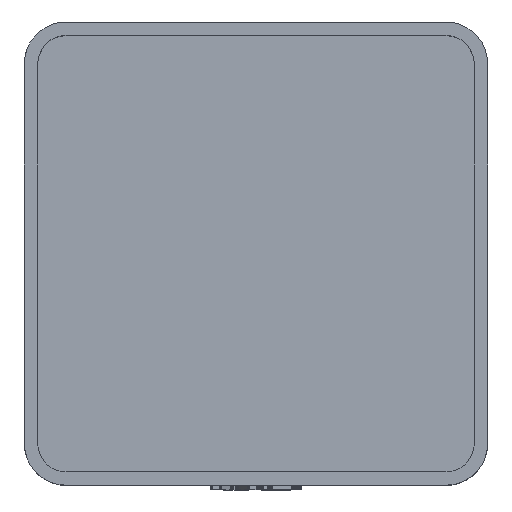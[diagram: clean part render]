
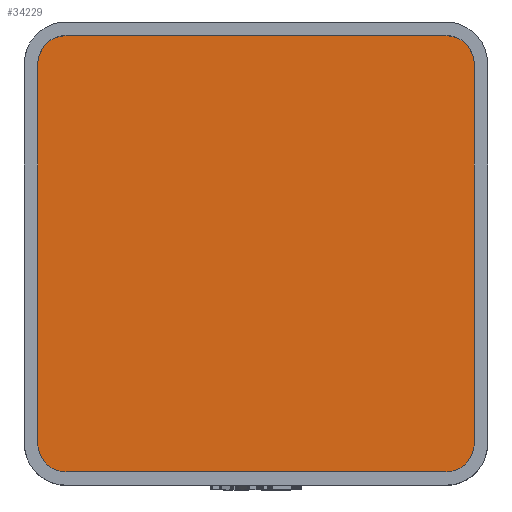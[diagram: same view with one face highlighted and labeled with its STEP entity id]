
A CAD part, top view. The second image highlights one B-rep face of the part: STEP entity #34229.
In plain terms, the highlighted planar face has unit normal (0, 0, 1).
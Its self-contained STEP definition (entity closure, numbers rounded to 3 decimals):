
#1442 = PLANE('',#1443);
#1443 = AXIS2_PLACEMENT_3D('',#1444,#1445,#1446);
#1444 = CARTESIAN_POINT('',(-19.55,-17.,4.75));
#1445 = DIRECTION('',(-1.,0.,0.));
#1446 = DIRECTION('',(0.,1.,0.));
#1474 = CYLINDRICAL_SURFACE('',#1475,2.55);
#1475 = AXIS2_PLACEMENT_3D('',#1476,#1477,#1478);
#1476 = CARTESIAN_POINT('',(-17.,17.,4.75));
#1477 = DIRECTION('',(-0.,-0.,-1.));
#1478 = DIRECTION('',(1.,0.,0.));
#1501 = PLANE('',#1502);
#1502 = AXIS2_PLACEMENT_3D('',#1503,#1504,#1505);
#1503 = CARTESIAN_POINT('',(-17.,19.55,4.75));
#1504 = DIRECTION('',(0.,1.,0.));
#1505 = DIRECTION('',(1.,0.,0.));
#1533 = CYLINDRICAL_SURFACE('',#1534,2.55);
#1534 = AXIS2_PLACEMENT_3D('',#1535,#1536,#1537);
#1535 = CARTESIAN_POINT('',(17.,17.,4.75));
#1536 = DIRECTION('',(-0.,-0.,-1.));
#1537 = DIRECTION('',(1.,0.,0.));
#1560 = PLANE('',#1561);
#1561 = AXIS2_PLACEMENT_3D('',#1562,#1563,#1564);
#1562 = CARTESIAN_POINT('',(19.55,-17.,4.75));
#1563 = DIRECTION('',(-1.,0.,0.));
#1564 = DIRECTION('',(0.,1.,0.));
#1592 = CYLINDRICAL_SURFACE('',#1593,2.55);
#1593 = AXIS2_PLACEMENT_3D('',#1594,#1595,#1596);
#1594 = CARTESIAN_POINT('',(17.,-17.,4.75));
#1595 = DIRECTION('',(-0.,-0.,-1.));
#1596 = DIRECTION('',(1.,0.,0.));
#1619 = PLANE('',#1620);
#1620 = AXIS2_PLACEMENT_3D('',#1621,#1622,#1623);
#1621 = CARTESIAN_POINT('',(-17.,-19.55,4.75));
#1622 = DIRECTION('',(0.,1.,0.));
#1623 = DIRECTION('',(1.,0.,0.));
#1649 = CYLINDRICAL_SURFACE('',#1650,2.55);
#1650 = AXIS2_PLACEMENT_3D('',#1651,#1652,#1653);
#1651 = CARTESIAN_POINT('',(-17.,-17.,4.75));
#1652 = DIRECTION('',(-0.,-0.,-1.));
#1653 = DIRECTION('',(1.,0.,0.));
#12889 = EDGE_CURVE('',#12890,#12892,#12894,.T.);
#12890 = VERTEX_POINT('',#12891);
#12891 = CARTESIAN_POINT('',(-19.55,-17.,4.75));
#12892 = VERTEX_POINT('',#12893);
#12893 = CARTESIAN_POINT('',(-19.55,17.,4.75));
#12894 = SURFACE_CURVE('',#12895,(#12899,#12906),.PCURVE_S1.);
#12895 = LINE('',#12896,#12897);
#12896 = CARTESIAN_POINT('',(-19.55,0.,4.75));
#12897 = VECTOR('',#12898,1.);
#12898 = DIRECTION('',(0.,1.,0.));
#12899 = PCURVE('',#1442,#12900);
#12900 = DEFINITIONAL_REPRESENTATION('',(#12901),#12905);
#12901 = LINE('',#12902,#12903);
#12902 = CARTESIAN_POINT('',(17.,0.));
#12903 = VECTOR('',#12904,1.);
#12904 = DIRECTION('',(1.,0.));
#12905 = ( GEOMETRIC_REPRESENTATION_CONTEXT(2) 
PARAMETRIC_REPRESENTATION_CONTEXT() REPRESENTATION_CONTEXT('2D SPACE',''
  ) );
#12906 = PCURVE('',#12907,#12912);
#12907 = PLANE('',#12908);
#12908 = AXIS2_PLACEMENT_3D('',#12909,#12910,#12911);
#12909 = CARTESIAN_POINT('',(0.,0.,4.75
    ));
#12910 = DIRECTION('',(0.,0.,1.));
#12911 = DIRECTION('',(1.,0.,-0.));
#12912 = DEFINITIONAL_REPRESENTATION('',(#12913),#12917);
#12913 = LINE('',#12914,#12915);
#12914 = CARTESIAN_POINT('',(-19.55,0.));
#12915 = VECTOR('',#12916,1.);
#12916 = DIRECTION('',(0.,1.));
#12917 = ( GEOMETRIC_REPRESENTATION_CONTEXT(2) 
PARAMETRIC_REPRESENTATION_CONTEXT() REPRESENTATION_CONTEXT('2D SPACE',''
  ) );
#12965 = EDGE_CURVE('',#12890,#12966,#12968,.T.);
#12966 = VERTEX_POINT('',#12967);
#12967 = CARTESIAN_POINT('',(-17.,-19.55,4.75));
#12968 = SURFACE_CURVE('',#12969,(#12974,#12981),.PCURVE_S1.);
#12969 = CIRCLE('',#12970,2.55);
#12970 = AXIS2_PLACEMENT_3D('',#12971,#12972,#12973);
#12971 = CARTESIAN_POINT('',(-17.,-17.,4.75));
#12972 = DIRECTION('',(0.,0.,1.));
#12973 = DIRECTION('',(1.,0.,0.));
#12974 = PCURVE('',#1649,#12975);
#12975 = DEFINITIONAL_REPRESENTATION('',(#12976),#12980);
#12976 = LINE('',#12977,#12978);
#12977 = CARTESIAN_POINT('',(-0.,0.));
#12978 = VECTOR('',#12979,1.);
#12979 = DIRECTION('',(-1.,0.));
#12980 = ( GEOMETRIC_REPRESENTATION_CONTEXT(2) 
PARAMETRIC_REPRESENTATION_CONTEXT() REPRESENTATION_CONTEXT('2D SPACE',''
  ) );
#12981 = PCURVE('',#12907,#12982);
#12982 = DEFINITIONAL_REPRESENTATION('',(#12983),#12987);
#12983 = CIRCLE('',#12984,2.55);
#12984 = AXIS2_PLACEMENT_2D('',#12985,#12986);
#12985 = CARTESIAN_POINT('',(-17.,-17.));
#12986 = DIRECTION('',(1.,0.));
#12987 = ( GEOMETRIC_REPRESENTATION_CONTEXT(2) 
PARAMETRIC_REPRESENTATION_CONTEXT() REPRESENTATION_CONTEXT('2D SPACE',''
  ) );
#13015 = EDGE_CURVE('',#12966,#13016,#13018,.T.);
#13016 = VERTEX_POINT('',#13017);
#13017 = CARTESIAN_POINT('',(17.,-19.55,4.75));
#13018 = SURFACE_CURVE('',#13019,(#13023,#13030),.PCURVE_S1.);
#13019 = LINE('',#13020,#13021);
#13020 = CARTESIAN_POINT('',(0.,-19.55,4.75));
#13021 = VECTOR('',#13022,1.);
#13022 = DIRECTION('',(1.,0.,0.));
#13023 = PCURVE('',#1619,#13024);
#13024 = DEFINITIONAL_REPRESENTATION('',(#13025),#13029);
#13025 = LINE('',#13026,#13027);
#13026 = CARTESIAN_POINT('',(17.,0.));
#13027 = VECTOR('',#13028,1.);
#13028 = DIRECTION('',(1.,0.));
#13029 = ( GEOMETRIC_REPRESENTATION_CONTEXT(2) 
PARAMETRIC_REPRESENTATION_CONTEXT() REPRESENTATION_CONTEXT('2D SPACE',''
  ) );
#13030 = PCURVE('',#12907,#13031);
#13031 = DEFINITIONAL_REPRESENTATION('',(#13032),#13036);
#13032 = LINE('',#13033,#13034);
#13033 = CARTESIAN_POINT('',(0.,-19.55));
#13034 = VECTOR('',#13035,1.);
#13035 = DIRECTION('',(1.,0.));
#13036 = ( GEOMETRIC_REPRESENTATION_CONTEXT(2) 
PARAMETRIC_REPRESENTATION_CONTEXT() REPRESENTATION_CONTEXT('2D SPACE',''
  ) );
#13064 = EDGE_CURVE('',#13016,#13065,#13067,.T.);
#13065 = VERTEX_POINT('',#13066);
#13066 = CARTESIAN_POINT('',(19.55,-17.,4.75));
#13067 = SURFACE_CURVE('',#13068,(#13073,#13080),.PCURVE_S1.);
#13068 = CIRCLE('',#13069,2.55);
#13069 = AXIS2_PLACEMENT_3D('',#13070,#13071,#13072);
#13070 = CARTESIAN_POINT('',(17.,-17.,4.75));
#13071 = DIRECTION('',(0.,0.,1.));
#13072 = DIRECTION('',(1.,0.,0.));
#13073 = PCURVE('',#1592,#13074);
#13074 = DEFINITIONAL_REPRESENTATION('',(#13075),#13079);
#13075 = LINE('',#13076,#13077);
#13076 = CARTESIAN_POINT('',(-0.,0.));
#13077 = VECTOR('',#13078,1.);
#13078 = DIRECTION('',(-1.,0.));
#13079 = ( GEOMETRIC_REPRESENTATION_CONTEXT(2) 
PARAMETRIC_REPRESENTATION_CONTEXT() REPRESENTATION_CONTEXT('2D SPACE',''
  ) );
#13080 = PCURVE('',#12907,#13081);
#13081 = DEFINITIONAL_REPRESENTATION('',(#13082),#13086);
#13082 = CIRCLE('',#13083,2.55);
#13083 = AXIS2_PLACEMENT_2D('',#13084,#13085);
#13084 = CARTESIAN_POINT('',(17.,-17.));
#13085 = DIRECTION('',(1.,0.));
#13086 = ( GEOMETRIC_REPRESENTATION_CONTEXT(2) 
PARAMETRIC_REPRESENTATION_CONTEXT() REPRESENTATION_CONTEXT('2D SPACE',''
  ) );
#13114 = EDGE_CURVE('',#13065,#13115,#13117,.T.);
#13115 = VERTEX_POINT('',#13116);
#13116 = CARTESIAN_POINT('',(19.55,17.,4.75));
#13117 = SURFACE_CURVE('',#13118,(#13122,#13129),.PCURVE_S1.);
#13118 = LINE('',#13119,#13120);
#13119 = CARTESIAN_POINT('',(19.55,0.,4.75));
#13120 = VECTOR('',#13121,1.);
#13121 = DIRECTION('',(0.,1.,0.));
#13122 = PCURVE('',#1560,#13123);
#13123 = DEFINITIONAL_REPRESENTATION('',(#13124),#13128);
#13124 = LINE('',#13125,#13126);
#13125 = CARTESIAN_POINT('',(17.,0.));
#13126 = VECTOR('',#13127,1.);
#13127 = DIRECTION('',(1.,0.));
#13128 = ( GEOMETRIC_REPRESENTATION_CONTEXT(2) 
PARAMETRIC_REPRESENTATION_CONTEXT() REPRESENTATION_CONTEXT('2D SPACE',''
  ) );
#13129 = PCURVE('',#12907,#13130);
#13130 = DEFINITIONAL_REPRESENTATION('',(#13131),#13135);
#13131 = LINE('',#13132,#13133);
#13132 = CARTESIAN_POINT('',(19.55,0.));
#13133 = VECTOR('',#13134,1.);
#13134 = DIRECTION('',(0.,1.));
#13135 = ( GEOMETRIC_REPRESENTATION_CONTEXT(2) 
PARAMETRIC_REPRESENTATION_CONTEXT() REPRESENTATION_CONTEXT('2D SPACE',''
  ) );
#13163 = EDGE_CURVE('',#13115,#13164,#13166,.T.);
#13164 = VERTEX_POINT('',#13165);
#13165 = CARTESIAN_POINT('',(17.,19.55,4.75));
#13166 = SURFACE_CURVE('',#13167,(#13172,#13179),.PCURVE_S1.);
#13167 = CIRCLE('',#13168,2.55);
#13168 = AXIS2_PLACEMENT_3D('',#13169,#13170,#13171);
#13169 = CARTESIAN_POINT('',(17.,17.,4.75));
#13170 = DIRECTION('',(0.,0.,1.));
#13171 = DIRECTION('',(1.,0.,0.));
#13172 = PCURVE('',#1533,#13173);
#13173 = DEFINITIONAL_REPRESENTATION('',(#13174),#13178);
#13174 = LINE('',#13175,#13176);
#13175 = CARTESIAN_POINT('',(-0.,0.));
#13176 = VECTOR('',#13177,1.);
#13177 = DIRECTION('',(-1.,0.));
#13178 = ( GEOMETRIC_REPRESENTATION_CONTEXT(2) 
PARAMETRIC_REPRESENTATION_CONTEXT() REPRESENTATION_CONTEXT('2D SPACE',''
  ) );
#13179 = PCURVE('',#12907,#13180);
#13180 = DEFINITIONAL_REPRESENTATION('',(#13181),#13185);
#13181 = CIRCLE('',#13182,2.55);
#13182 = AXIS2_PLACEMENT_2D('',#13183,#13184);
#13183 = CARTESIAN_POINT('',(17.,17.));
#13184 = DIRECTION('',(1.,0.));
#13185 = ( GEOMETRIC_REPRESENTATION_CONTEXT(2) 
PARAMETRIC_REPRESENTATION_CONTEXT() REPRESENTATION_CONTEXT('2D SPACE',''
  ) );
#13213 = EDGE_CURVE('',#13214,#13164,#13216,.T.);
#13214 = VERTEX_POINT('',#13215);
#13215 = CARTESIAN_POINT('',(-17.,19.55,4.75));
#13216 = SURFACE_CURVE('',#13217,(#13221,#13228),.PCURVE_S1.);
#13217 = LINE('',#13218,#13219);
#13218 = CARTESIAN_POINT('',(0.,19.55,4.75));
#13219 = VECTOR('',#13220,1.);
#13220 = DIRECTION('',(1.,0.,0.));
#13221 = PCURVE('',#1501,#13222);
#13222 = DEFINITIONAL_REPRESENTATION('',(#13223),#13227);
#13223 = LINE('',#13224,#13225);
#13224 = CARTESIAN_POINT('',(17.,0.));
#13225 = VECTOR('',#13226,1.);
#13226 = DIRECTION('',(1.,0.));
#13227 = ( GEOMETRIC_REPRESENTATION_CONTEXT(2) 
PARAMETRIC_REPRESENTATION_CONTEXT() REPRESENTATION_CONTEXT('2D SPACE',''
  ) );
#13228 = PCURVE('',#12907,#13229);
#13229 = DEFINITIONAL_REPRESENTATION('',(#13230),#13234);
#13230 = LINE('',#13231,#13232);
#13231 = CARTESIAN_POINT('',(0.,19.55));
#13232 = VECTOR('',#13233,1.);
#13233 = DIRECTION('',(1.,0.));
#13234 = ( GEOMETRIC_REPRESENTATION_CONTEXT(2) 
PARAMETRIC_REPRESENTATION_CONTEXT() REPRESENTATION_CONTEXT('2D SPACE',''
  ) );
#13262 = EDGE_CURVE('',#13214,#12892,#13263,.T.);
#13263 = SURFACE_CURVE('',#13264,(#13269,#13276),.PCURVE_S1.);
#13264 = CIRCLE('',#13265,2.55);
#13265 = AXIS2_PLACEMENT_3D('',#13266,#13267,#13268);
#13266 = CARTESIAN_POINT('',(-17.,17.,4.75));
#13267 = DIRECTION('',(0.,0.,1.));
#13268 = DIRECTION('',(1.,0.,0.));
#13269 = PCURVE('',#1474,#13270);
#13270 = DEFINITIONAL_REPRESENTATION('',(#13271),#13275);
#13271 = LINE('',#13272,#13273);
#13272 = CARTESIAN_POINT('',(-0.,0.));
#13273 = VECTOR('',#13274,1.);
#13274 = DIRECTION('',(-1.,0.));
#13275 = ( GEOMETRIC_REPRESENTATION_CONTEXT(2) 
PARAMETRIC_REPRESENTATION_CONTEXT() REPRESENTATION_CONTEXT('2D SPACE',''
  ) );
#13276 = PCURVE('',#12907,#13277);
#13277 = DEFINITIONAL_REPRESENTATION('',(#13278),#13282);
#13278 = CIRCLE('',#13279,2.55);
#13279 = AXIS2_PLACEMENT_2D('',#13280,#13281);
#13280 = CARTESIAN_POINT('',(-17.,17.));
#13281 = DIRECTION('',(1.,0.));
#13282 = ( GEOMETRIC_REPRESENTATION_CONTEXT(2) 
PARAMETRIC_REPRESENTATION_CONTEXT() REPRESENTATION_CONTEXT('2D SPACE',''
  ) );
#34229 = ADVANCED_FACE('',(#34230),#12907,.T.);
#34230 = FACE_BOUND('',#34231,.T.);
#34231 = EDGE_LOOP('',(#34232,#34233,#34234,#34235,#34236,#34237,#34238,
    #34239));
#34232 = ORIENTED_EDGE('',*,*,#12889,.F.);
#34233 = ORIENTED_EDGE('',*,*,#12965,.T.);
#34234 = ORIENTED_EDGE('',*,*,#13015,.T.);
#34235 = ORIENTED_EDGE('',*,*,#13064,.T.);
#34236 = ORIENTED_EDGE('',*,*,#13114,.T.);
#34237 = ORIENTED_EDGE('',*,*,#13163,.T.);
#34238 = ORIENTED_EDGE('',*,*,#13213,.F.);
#34239 = ORIENTED_EDGE('',*,*,#13262,.T.);
